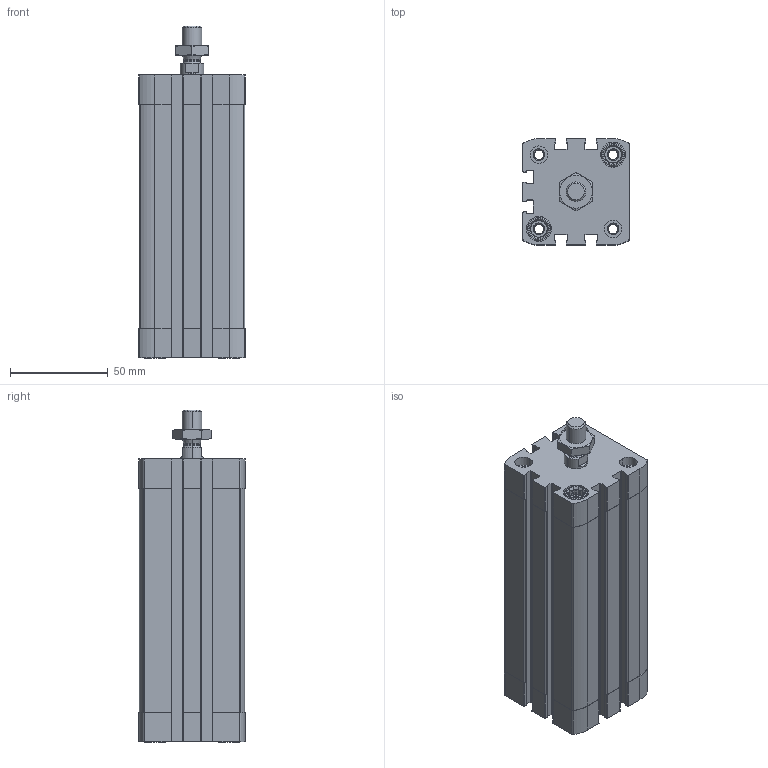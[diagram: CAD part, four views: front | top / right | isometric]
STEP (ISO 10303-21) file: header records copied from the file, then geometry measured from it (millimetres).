
FILE_DESCRIPTION (( 'STEP AP203' ), '1' );
FILE_NAME ('CCN40-100M.STEP', '2017-04-03T11:33:50', ( '' ), ( '' ), 'SwSTEP 2.0', 'SolidWorks 2016', '' );
FILE_SCHEMA (( 'CONFIG_CONTROL_DESIGN' ));
Length unit declared in the file: millimetre
Products named in the file (4): CCN-100---(Z); CCN-100_(KS); _DIN-439-B - M10x1.25(F); CCN40-100M
Assembly tree (3 placements, depth 2):
  CCN40-100M
    CCN-100---(Z)
    CCN-100_(KS)
    _DIN-439-B - M10x1.25(F)
Bounding box: 54.5 x 54.5 x 170.1 mm (x, y, z)
Volume: 262004.1 mm3; surface area: 86666.4 mm2
Topology: 3 solids, 3 shells, 499 faces, 1336 edges, 874 vertices
Faces by surface type: plane 275, cylinder 172, cone 48, bspline 4
Entity records: 16266 total; most frequent: CARTESIAN_POINT 3123, DIRECTION 2724, ORIENTED_EDGE 2672, EDGE_CURVE 1336, AXIS2_PLACEMENT_3D 999, VERTEX_POINT 874, VECTOR 726, LINE 726
